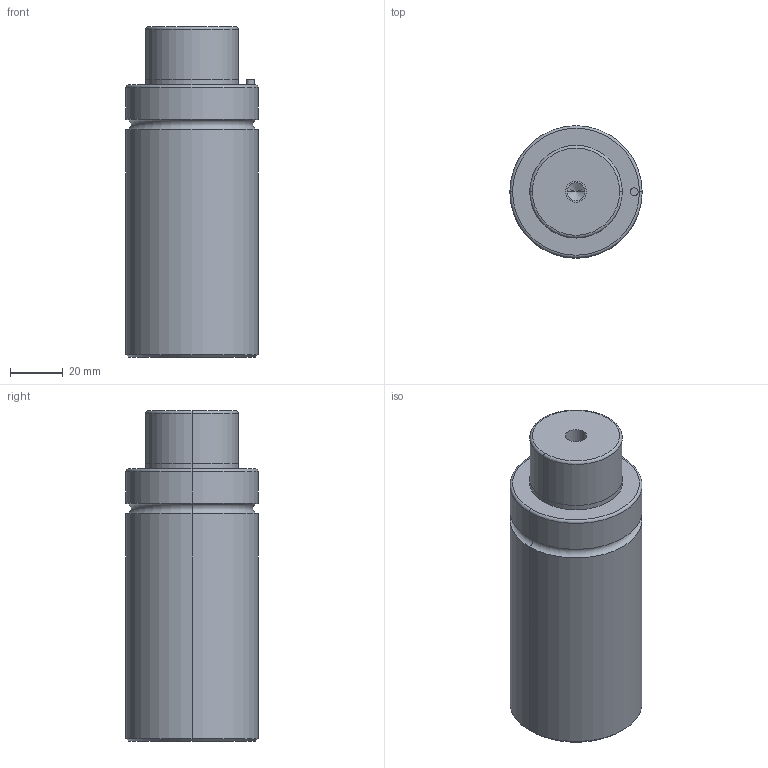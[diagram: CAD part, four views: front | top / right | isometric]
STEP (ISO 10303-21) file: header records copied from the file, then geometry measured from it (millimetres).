
FILE_DESCRIPTION(/* description */ (''),/* implementation_level */ '2;1');
FILE_NAME(/* name */ '3d_gsm50-20_03924_r00.stp',/* time_stamp */ '2011-01-10T14:15:15+09:00',/* author */ ('MISUMI'),/* organization */ (''),/* preprocessor_version */ 'ST-DEVELOPER v11',/* originating_system */ 'UGS - NX 5.0',/* authorisation */ '');
FILE_SCHEMA (('CONFIG_CONTROL_DESIGN'));
Length unit declared in the file: millimetre
Products named in the file (1): 3d_gsm50-20_03924_r00
Bounding box: 50 x 50 x 125 mm (x, y, z)
Volume: 219460.8 mm3; surface area: 24086.7 mm2
Topology: 1 solids, 1 shells, 50 faces, 106 edges, 60 vertices
Faces by surface type: cylinder 26, cone 10, plane 8, torus 6
Entity records: 1382 total; most frequent: DIRECTION 262, CARTESIAN_POINT 209, ORIENTED_EDGE 196, AXIS2_PLACEMENT_3D 113, EDGE_CURVE 98, CIRCLE 62, EDGE_LOOP 60, VERTEX_POINT 60
